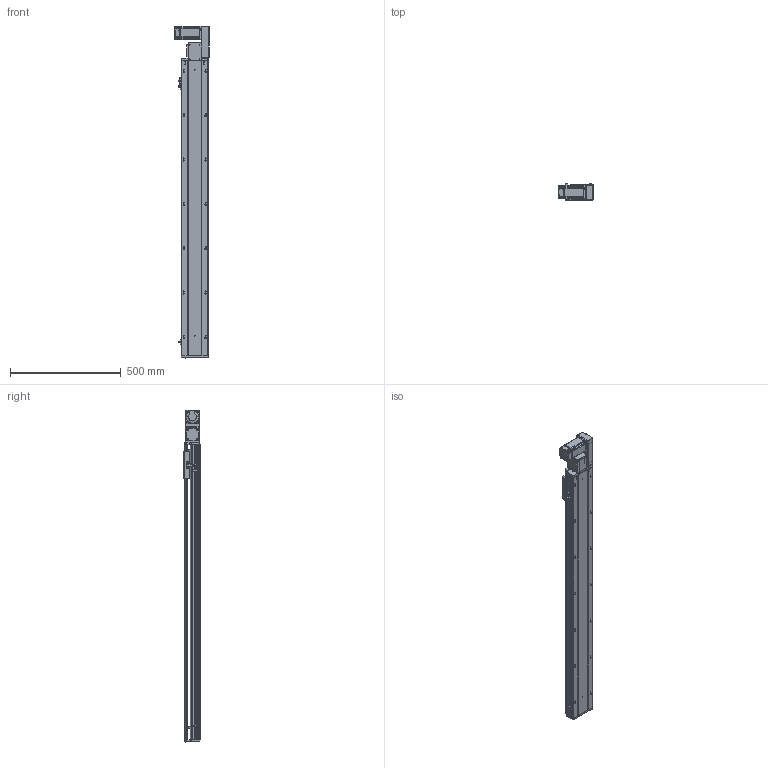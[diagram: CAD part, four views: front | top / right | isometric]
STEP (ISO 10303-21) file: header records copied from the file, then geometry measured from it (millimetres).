
FILE_DESCRIPTION (( 'STEP AP203' ), '1' );
FILE_NAME ('RY120-T-300-RK.SLDASM_1100.step', '2021-03-01T03:53:48', ( '盈信电脑' ), ( '东莞市道滘镇水果街19号' ), 'SwSTEP 2.0', 'SolidWorks 2012', '' );
FILE_SCHEMA (( 'CONFIG_CONTROL_DESIGN' ));
Length unit declared in the file: millimetre
Products named in the file (17): RY120-T-300-RK.SLDASM_1100; RY120-T主同步轮轴承压盖; RY120-T萇儂欶; RY120-T蹟翐M4; RY120-T翋肮祭謫裔啣; 15; RY120-T萇儂假蚾啣; 滅袉蝶18-10; RY120-T翋肮祭盓傅釱; RY120-T肮祭湍揤踡輸2; RY120外置感应片(140共用）; 覜茼ん672; RY120綴裔啣; RY120-T肮祭湍揤踡輸1; RY120肮祭湍臏賑輸; RY120-T-300-RK倰第奻裔啣_1100; RY120-T-300-RK倰第菁釱_1100
Assembly tree (22 placements, depth 2):
  RY120-T-300-RK.SLDASM_1100
    RY120-T-300-RK倰第菁釱_1100
    RY120-T-300-RK倰第奻裔啣_1100
    RY120肮祭湍臏賑輸
    RY120綴裔啣
    覜茼ん672  x3
    RY120外置感应片(140共用）
    RY120-T肮祭湍揤踡輸1
    RY120-T肮祭湍揤踡輸2
    RY120-T翋肮祭盓傅釱
    滅袉蝶18-10  x2
    RY120-T翋肮祭謫裔啣
    15
    RY120-T萇儂假蚾啣
    RY120-T蹟翐M4  x4
    RY120-T萇儂欶
    RY120-T主同步轮轴承压盖
Bounding box: 155.5 x 73 x 1497.5 mm (x, y, z)
Volume: 3836994.8 mm3; surface area: 1437137.7 mm2
Topology: 23 solids, 23 shells, 2828 faces, 7700 edges, 4930 vertices
Faces by surface type: plane 1412, cylinder 1070, cone 257, bspline 89
Entity records: 89713 total; most frequent: CARTESIAN_POINT 22696, ORIENTED_EDGE 13808, DIRECTION 13102, EDGE_CURVE 6904, VERTEX_POINT 4517, AXIS2_PLACEMENT_3D 4391, VECTOR 4320, LINE 4320
